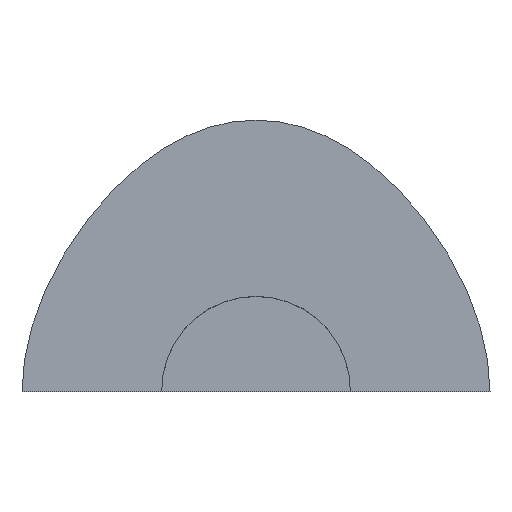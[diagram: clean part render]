
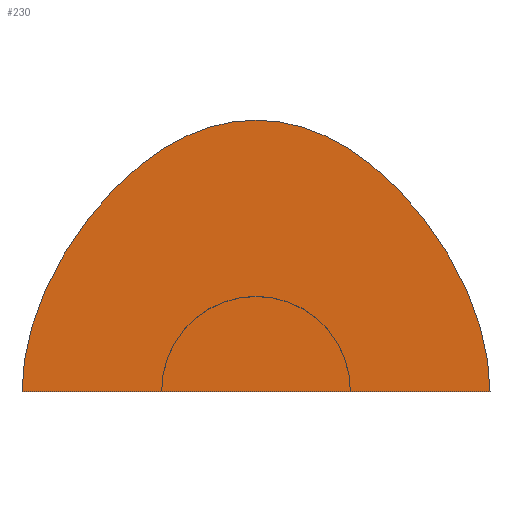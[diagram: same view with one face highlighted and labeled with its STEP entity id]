
A CAD part, top view. The second image highlights one B-rep face of the part: STEP entity #230.
In plain terms, the highlighted planar face has unit normal (0, 0, 1).
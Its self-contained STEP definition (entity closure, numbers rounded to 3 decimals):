
#193=CARTESIAN_POINT('Axis2P3D Location',(0.,58.531,0.)) ;
#198=CARTESIAN_POINT('Line Origine',(0.,0.,0.)) ;
#202=CARTESIAN_POINT('Vertex',(-124.,0.,0.)) ;
#204=CARTESIAN_POINT('Vertex',(124.,0.,0.)) ;
#208=CARTESIAN_POINT('Control Point',(0.,144.,0.)) ;
#209=CARTESIAN_POINT('Control Point',(38.006,144.,0.)) ;
#210=CARTESIAN_POINT('Control Point',(73.757,122.252,0.)) ;
#211=CARTESIAN_POINT('Control Point',(107.252,78.757,0.)) ;
#212=CARTESIAN_POINT('Control Point',(124.,38.006,0.)) ;
#213=CARTESIAN_POINT('Control Point',(124.,0.,0.)) ;
#214=CARTESIAN_POINT('Vertex',(0.,144.,0.)) ;
#218=CARTESIAN_POINT('Control Point',(0.,144.,0.)) ;
#219=CARTESIAN_POINT('Control Point',(-38.006,144.,0.)) ;
#220=CARTESIAN_POINT('Control Point',(-73.757,122.252,0.)) ;
#221=CARTESIAN_POINT('Control Point',(-107.252,78.757,0.)) ;
#222=CARTESIAN_POINT('Control Point',(-124.,38.006,0.)) ;
#223=CARTESIAN_POINT('Control Point',(-124.,0.,0.)) ;
#194=DIRECTION('Axis2P3D Direction',(0.,0.,1.)) ;
#195=DIRECTION('Axis2P3D XDirection',(1.,0.,0.)) ;
#199=DIRECTION('Vector Direction',(1.,0.,0.)) ;
#196=AXIS2_PLACEMENT_3D('Plane Axis2P3D',#193,#194,#195) ;
#226=ORIENTED_EDGE('',*,*,#206,.T.) ;
#227=ORIENTED_EDGE('',*,*,#216,.T.) ;
#228=ORIENTED_EDGE('',*,*,#224,.T.) ;
#200=VECTOR('Line Direction',#199,1.) ;
#230=ADVANCED_FACE('Fill.1',(#229),#197,.T.) ;
#207=B_SPLINE_CURVE_WITH_KNOTS('',5,(#208,#209,#210,#211,#212,#213),.UNSPECIFIED.,.F.,.U.,(6,6),(0.,190.032),.UNSPECIFIED.) ;
#217=B_SPLINE_CURVE_WITH_KNOTS('',5,(#218,#219,#220,#221,#222,#223),.UNSPECIFIED.,.F.,.U.,(6,6),(0.,190.032),.UNSPECIFIED.) ;
#206=EDGE_CURVE('',#203,#205,#201,.T.) ;
#216=EDGE_CURVE('',#205,#215,#207,.F.) ;
#224=EDGE_CURVE('',#215,#203,#217,.T.) ;
#225=EDGE_LOOP('',(#226,#227,#228)) ;
#229=FACE_OUTER_BOUND('',#225,.T.) ;
#201=LINE('Line',#198,#200) ;
#197=PLANE('',#196) ;
#203=VERTEX_POINT('',#202) ;
#205=VERTEX_POINT('',#204) ;
#215=VERTEX_POINT('',#214) ;
